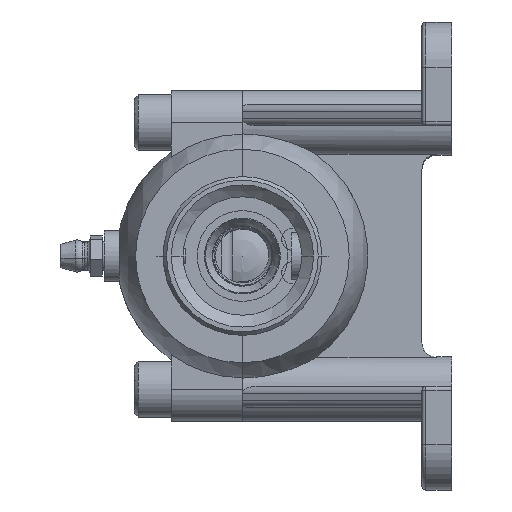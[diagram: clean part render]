
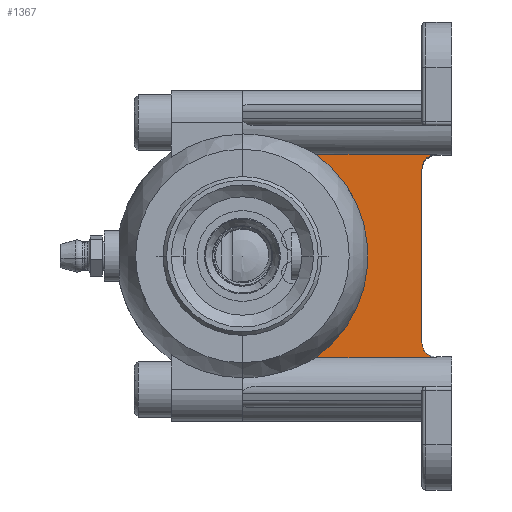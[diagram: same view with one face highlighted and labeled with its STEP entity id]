
A CAD part, left-side view. The second image highlights one B-rep face of the part: STEP entity #1367.
In plain terms, the highlighted planar face has unit normal (-1, 0, 0).
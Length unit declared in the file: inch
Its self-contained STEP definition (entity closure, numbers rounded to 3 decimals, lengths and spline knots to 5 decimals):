
#410 = LINE ( 'NONE', #11174, #5526 ) ;
#656 = CARTESIAN_POINT ( 'NONE',  ( -0.075, 0.18811, -0.84301 ) ) ;
#835 = PLANE ( 'NONE',  #12931 ) ;
#873 = VECTOR ( 'NONE', #19387, 39.37008 ) ;
#880 = CARTESIAN_POINT ( 'NONE',  ( -0.075, 1.14617, -0.86042 ) ) ;
#1367 = ADVANCED_FACE ( 'NONE', ( #22006 ), #835, .T. ) ;
#1400 = EDGE_CURVE ( 'NONE', #4459, #4385, #2455, .T. ) ;
#1493 = ORIENTED_EDGE ( 'NONE', *, *, #3895, .T. ) ;
#1710 = EDGE_CURVE ( 'NONE', #4459, #3766, #3083, .T. ) ;
#1925 = CARTESIAN_POINT ( 'NONE',  ( -0.075, 1.765, 0. ) ) ;
#2070 = ORIENTED_EDGE ( 'NONE', *, *, #6452, .F. ) ;
#2435 = CARTESIAN_POINT ( 'NONE',  ( -0.075, 0.13336, -0.86042 ) ) ;
#2455 = LINE ( 'NONE', #10146, #873 ) ;
#2515 = CARTESIAN_POINT ( 'NONE',  ( -0.075, 0.20808, -0.82807 ) ) ;
#2775 = CARTESIAN_POINT ( 'NONE',  ( -0.075, 1.32, 1.125 ) ) ;
#2919 = ORIENTED_EDGE ( 'NONE', *, *, #1710, .T. ) ;
#3083 = B_SPLINE_CURVE_WITH_KNOTS ( 'NONE', 3,
 ( #20849, #2435, #4273, #9801, #22685, #11701, #656, #13560, #2515, #15429, #4356, #17304, #6184, #19110, #8043, #20928 ),
 .UNSPECIFIED., .F., .F.,
 ( 4, 2, 2, 2, 2, 2, 2, 4 ),
 ( 0., 0.00063, 0.00126, 0.00188, 0.00251, 0.00377, 0.00439, 0.00502 ),
 .UNSPECIFIED. ) ;
#3194 = ORIENTED_EDGE ( 'NONE', *, *, #1400, .F. ) ;
#3597 = VERTEX_POINT ( 'NONE', #18527 ) ;
#3766 = VERTEX_POINT ( 'NONE', #18701 ) ;
#3895 = EDGE_CURVE ( 'NONE', #10988, #5953, #19333, .T. ) ;
#4273 = CARTESIAN_POINT ( 'NONE',  ( -0.075, 0.14157, -0.85956 ) ) ;
#4356 = CARTESIAN_POINT ( 'NONE',  ( -0.075, 0.23442, -0.79598 ) ) ;
#4385 = VERTEX_POINT ( 'NONE', #880 ) ;
#4459 = VERTEX_POINT ( 'NONE', #14755 ) ;
#4611 = DIRECTION ( 'NONE',  ( 0., 0., 1. ) ) ;
#5526 = VECTOR ( 'NONE', #11152, 39.37008 ) ;
#5953 = VERTEX_POINT ( 'NONE', #20481 ) ;
#6184 = CARTESIAN_POINT ( 'NONE',  ( -0.075, 0.24603, -0.76502 ) ) ;
#6452 = EDGE_CURVE ( 'NONE', #10988, #3766, #410, .T. ) ;
#6581 = DIRECTION ( 'NONE',  ( 0., -1., 0. ) ) ;
#6716 = EDGE_CURVE ( 'NONE', #3597, #5953, #14492, .T. ) ;
#6875 = CARTESIAN_POINT ( 'NONE',  ( -0.075, 4.30782, 0.86042 ) ) ;
#7985 = DIRECTION ( 'NONE',  ( 0., 0., 1. ) ) ;
#8043 = CARTESIAN_POINT ( 'NONE',  ( -0.075, 0.25, -0.74045 ) ) ;
#8936 = CARTESIAN_POINT ( 'NONE',  ( -0.075, 0.25, 0.73209 ) ) ;
#9801 = CARTESIAN_POINT ( 'NONE',  ( -0.075, 0.15771, -0.85619 ) ) ;
#10146 = CARTESIAN_POINT ( 'NONE',  ( -0.075, 4.30782, -0.86042 ) ) ;
#10988 = VERTEX_POINT ( 'NONE', #8936 ) ;
#11152 = DIRECTION ( 'NONE',  ( 0., 0., -1. ) ) ;
#11174 = CARTESIAN_POINT ( 'NONE',  ( -0.075, 0.25, 1.125 ) ) ;
#11402 = DIRECTION ( 'NONE',  ( -1., 0., 0. ) ) ;
#11701 = CARTESIAN_POINT ( 'NONE',  ( -0.075, 0.18091, -0.84704 ) ) ;
#12931 = AXIS2_PLACEMENT_3D ( 'NONE', #2775, #15708, #4611 ) ;
#13406 = EDGE_CURVE ( 'NONE', #4385, #3597, #15350, .T. ) ;
#13560 = CARTESIAN_POINT ( 'NONE',  ( -0.075, 0.2017, -0.83353 ) ) ;
#13904 = VECTOR ( 'NONE', #6581, 39.37008 ) ;
#14221 = ORIENTED_EDGE ( 'NONE', *, *, #6716, .F. ) ;
#14492 = LINE ( 'NONE', #6875, #13904 ) ;
#14571 = EDGE_LOOP ( 'NONE', ( #3194, #2919, #2070, #1493, #14221, #16559 ) ) ;
#14674 = CARTESIAN_POINT ( 'NONE',  ( -0.075, 0.125, 0.86042 ) ) ;
#14755 = CARTESIAN_POINT ( 'NONE',  ( -0.075, 0.125, -0.86042 ) ) ;
#14776 = CARTESIAN_POINT ( 'NONE',  ( -0.075, 0.14173, 0.86042 ) ) ;
#14797 = CARTESIAN_POINT ( 'NONE',  ( -0.075, 0.1583, 0.85688 ) ) ;
#14828 = CARTESIAN_POINT ( 'NONE',  ( -0.075, 0.18097, 0.84701 ) ) ;
#14857 = CARTESIAN_POINT ( 'NONE',  ( -0.075, 0.1883, 0.8429 ) ) ;
#15001 = CARTESIAN_POINT ( 'NONE',  ( -0.075, 0.20188, 0.83339 ) ) ;
#15026 = CARTESIAN_POINT ( 'NONE',  ( -0.075, 0.20813, 0.82803 ) ) ;
#15070 = CARTESIAN_POINT ( 'NONE',  ( -0.075, 0.21957, 0.81611 ) ) ;
#15096 = CARTESIAN_POINT ( 'NONE',  ( -0.075, 0.22479, 0.8095 ) ) ;
#15151 = CARTESIAN_POINT ( 'NONE',  ( -0.075, 0.23373, 0.79562 ) ) ;
#15183 = CARTESIAN_POINT ( 'NONE',  ( -0.075, 0.23752, 0.7883 ) ) ;
#15268 = CARTESIAN_POINT ( 'NONE',  ( -0.075, 0.24371, 0.77289 ) ) ;
#15298 = CARTESIAN_POINT ( 'NONE',  ( -0.075, 0.24607, 0.76485 ) ) ;
#15350 = CIRCLE ( 'NONE', #16722, 1.05985 ) ;
#15381 = CARTESIAN_POINT ( 'NONE',  ( -0.075, 0.2492, 0.74867 ) ) ;
#15420 = CARTESIAN_POINT ( 'NONE',  ( -0.075, 0.25, 0.73209 ) ) ;
#15429 = CARTESIAN_POINT ( 'NONE',  ( -0.075, 0.22523, -0.81024 ) ) ;
#15507 = CARTESIAN_POINT ( 'NONE',  ( -0.075, 0.25, 0.74045 ) ) ;
#15708 = DIRECTION ( 'NONE',  ( -1., 0., 0. ) ) ;
#16559 = ORIENTED_EDGE ( 'NONE', *, *, #13406, .F. ) ;
#16722 = AXIS2_PLACEMENT_3D ( 'NONE', #1925, #11402, #7985 ) ;
#17304 = CARTESIAN_POINT ( 'NONE',  ( -0.075, 0.24365, -0.77305 ) ) ;
#18527 = CARTESIAN_POINT ( 'NONE',  ( -0.075, 1.14617, 0.86042 ) ) ;
#18701 = CARTESIAN_POINT ( 'NONE',  ( -0.075, 0.25, -0.73209 ) ) ;
#19110 = CARTESIAN_POINT ( 'NONE',  ( -0.075, 0.2492, -0.7487 ) ) ;
#19333 = B_SPLINE_CURVE_WITH_KNOTS ( 'NONE', 3,
 ( #15420, #15507, #15381, #15298, #15268, #15183, #15151, #15096, #15070, #15026, #15001, #14857, #14828, #14797, #14776, #14674 ),
 .UNSPECIFIED., .F., .F.,
 ( 4, 2, 2, 2, 2, 2, 2, 4 ),
 ( 0., 0.00063, 0.00126, 0.00188, 0.00251, 0.00314, 0.00377, 0.00502 ),
 .UNSPECIFIED. ) ;
#19387 = DIRECTION ( 'NONE',  ( 0., 1., 0. ) ) ;
#20481 = CARTESIAN_POINT ( 'NONE',  ( -0.075, 0.125, 0.86042 ) ) ;
#20849 = CARTESIAN_POINT ( 'NONE',  ( -0.075, 0.125, -0.86042 ) ) ;
#20928 = CARTESIAN_POINT ( 'NONE',  ( -0.075, 0.25, -0.73209 ) ) ;
#22006 = FACE_OUTER_BOUND ( 'NONE', #14571, .T. ) ;
#22685 = CARTESIAN_POINT ( 'NONE',  ( -0.075, 0.16572, -0.85364 ) ) ;
